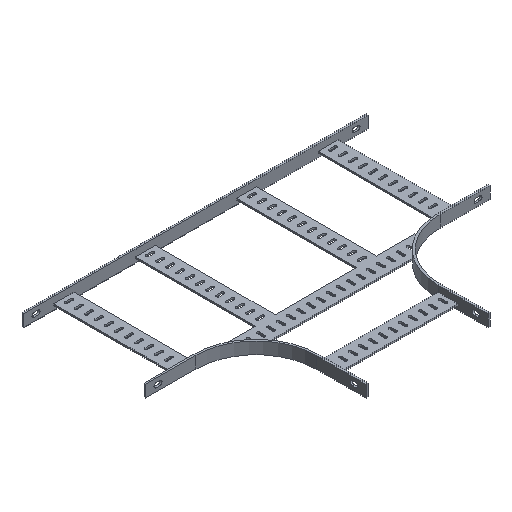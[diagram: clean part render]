
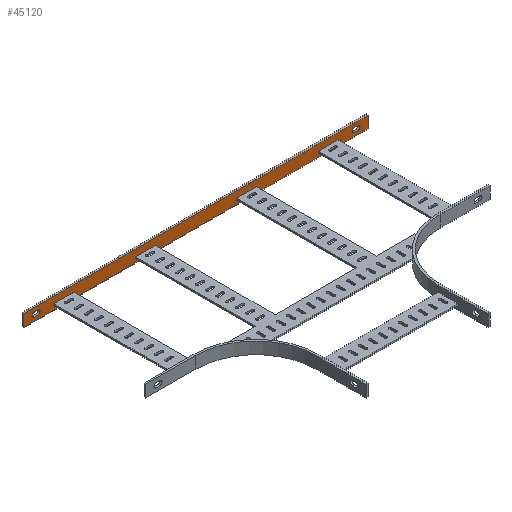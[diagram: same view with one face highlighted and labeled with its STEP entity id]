
A CAD part, isometric view. The second image highlights one B-rep face of the part: STEP entity #45120.
In plain terms, the highlighted planar face has unit normal (0, -1, 0).
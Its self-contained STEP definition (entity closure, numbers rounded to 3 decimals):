
#25350=CARTESIAN_POINT('',(-660.,455.,-16.));
#25360=VERTEX_POINT('',#25350);
#25390=CARTESIAN_POINT('',(0.,455.,-16.));
#25400=DIRECTION('',(-1.,0.,0.));
#25410=VECTOR('',#25400,1.);
#25420=LINE('',#25390,#25410);
#25430=CARTESIAN_POINT('',(-610.,455.,-16.));
#25440=VERTEX_POINT('',#25430);
#25450=EDGE_CURVE('',#25440,#25360,#25420,.T.);
#30290=CARTESIAN_POINT('',(-660.,455.,-20.));
#30300=VERTEX_POINT('',#30290);
#30330=CARTESIAN_POINT('',(-660.,455.,0.));
#30340=DIRECTION('',(0.,0.,-1.));
#30350=VECTOR('',#30340,1.);
#30360=LINE('',#30330,#30350);
#30370=EDGE_CURVE('',#25360,#30300,#30360,.T.);
#30530=CARTESIAN_POINT('',(-610.,455.,-20.));
#30540=VERTEX_POINT('',#30530);
#30570=CARTESIAN_POINT('',(0.,455.,-20.));
#30580=DIRECTION('',(1.,0.,0.));
#30590=VECTOR('',#30580,1.);
#30600=LINE('',#30570,#30590);
#30610=EDGE_CURVE('',#30300,#30540,#30600,.T.);
#34970=CARTESIAN_POINT('',(-610.,455.,0.));
#34980=DIRECTION('',(0.,0.,1.));
#34990=VECTOR('',#34980,1.);
#35000=LINE('',#34970,#34990);
#35010=EDGE_CURVE('',#30540,#25440,#35000,.T.);
#43010=CARTESIAN_POINT('',(125.,455.,0.));
#43020=DIRECTION('',(-0.,1.,0.));
#43030=DIRECTION('',(1.,0.,0.));
#43040=AXIS2_PLACEMENT_3D('',#43010,#43020,#43030);
#43050=PLANE('',#43040);
#43060=CARTESIAN_POINT('',(125.,455.,0.));
#43070=DIRECTION('',(-1.,0.,0.));
#43080=VECTOR('',#43070,1.);
#43090=LINE('',#43060,#43080);
#43100=CARTESIAN_POINT('',(125.,455.,0.));
#43110=VERTEX_POINT('',#43100);
#43120=CARTESIAN_POINT('',(-735.,455.,0.));
#43130=VERTEX_POINT('',#43120);
#43140=EDGE_CURVE('',#43110,#43130,#43090,.T.);
#43150=ORIENTED_EDGE('',*,*,#43140,.T.);
#43160=CARTESIAN_POINT('',(125.,455.,0.));
#43170=DIRECTION('',(0.,0.,-1.));
#43180=VECTOR('',#43170,1.);
#43190=LINE('',#43160,#43180);
#43200=CARTESIAN_POINT('',(125.,455.,-30.));
#43210=VERTEX_POINT('',#43200);
#43220=EDGE_CURVE('',#43110,#43210,#43190,.T.);
#43230=ORIENTED_EDGE('',*,*,#43220,.F.);
#43240=CARTESIAN_POINT('',(125.,455.,-30.));
#43250=DIRECTION('',(-1.,0.,0.));
#43260=VECTOR('',#43250,1.);
#43270=LINE('',#43240,#43260);
#43280=CARTESIAN_POINT('',(-735.,455.,-30.));
#43290=VERTEX_POINT('',#43280);
#43300=EDGE_CURVE('',#43210,#43290,#43270,.T.);
#43310=ORIENTED_EDGE('',*,*,#43300,.F.);
#43320=CARTESIAN_POINT('',(-735.,455.,0.));
#43330=DIRECTION('',(0.,0.,-1.));
#43340=VECTOR('',#43330,1.);
#43350=LINE('',#43320,#43340);
#43360=EDGE_CURVE('',#43130,#43290,#43350,.T.);
#43370=ORIENTED_EDGE('',*,*,#43360,.T.);
#43380=EDGE_LOOP('',(#43370,#43310,#43230,#43150));
#43390=FACE_OUTER_BOUND('',#43380,.T.);
#43400=CARTESIAN_POINT('',(-709.5,455.,-15.));
#43410=DIRECTION('',(0.,1.,0.));
#43420=DIRECTION('',(-1.,0.,0.));
#43430=AXIS2_PLACEMENT_3D('',#43400,#43410,#43420);
#43440=CIRCLE('',#43430,5.5);
#43450=CARTESIAN_POINT('',(-709.5,455.,-20.5));
#43460=VERTEX_POINT('',#43450);
#43470=CARTESIAN_POINT('',(-709.5,455.,-9.5));
#43480=VERTEX_POINT('',#43470);
#43490=EDGE_CURVE('',#43460,#43480,#43440,.T.);
#43500=ORIENTED_EDGE('',*,*,#43490,.T.);
#43510=CARTESIAN_POINT('',(-610.,455.,-20.5));
#43520=DIRECTION('',(-1.,0.,0.));
#43530=VECTOR('',#43520,1.);
#43540=LINE('',#43510,#43530);
#43550=CARTESIAN_POINT('',(-700.5,455.,-20.5));
#43560=VERTEX_POINT('',#43550);
#43570=EDGE_CURVE('',#43560,#43460,#43540,.T.);
#43580=ORIENTED_EDGE('',*,*,#43570,.T.);
#43590=CARTESIAN_POINT('',(-700.5,455.,-15.));
#43600=DIRECTION('',(0.,-1.,0.));
#43610=DIRECTION('',(-1.,0.,0.));
#43620=AXIS2_PLACEMENT_3D('',#43590,#43600,#43610);
#43630=CIRCLE('',#43620,5.5);
#43640=CARTESIAN_POINT('',(-700.5,455.,-9.5));
#43650=VERTEX_POINT('',#43640);
#43660=EDGE_CURVE('',#43560,#43650,#43630,.T.);
#43670=ORIENTED_EDGE('',*,*,#43660,.F.);
#43680=CARTESIAN_POINT('',(-610.,455.,-9.5));
#43690=DIRECTION('',(1.,0.,0.));
#43700=VECTOR('',#43690,1.);
#43710=LINE('',#43680,#43700);
#43720=EDGE_CURVE('',#43480,#43650,#43710,.T.);
#43730=ORIENTED_EDGE('',*,*,#43720,.T.);
#43740=EDGE_LOOP('',(#43730,#43670,#43580,#43500));
#43750=FACE_BOUND('',#43740,.T.);
#43760=CARTESIAN_POINT('',(-610.,455.,-20.5));
#43770=DIRECTION('',(-1.,0.,0.));
#43780=VECTOR('',#43770,1.);
#43790=LINE('',#43760,#43780);
#43800=CARTESIAN_POINT('',(99.5,455.,-20.5));
#43810=VERTEX_POINT('',#43800);
#43820=CARTESIAN_POINT('',(90.5,455.,-20.5));
#43830=VERTEX_POINT('',#43820);
#43840=EDGE_CURVE('',#43810,#43830,#43790,.T.);
#43850=ORIENTED_EDGE('',*,*,#43840,.T.);
#43860=CARTESIAN_POINT('',(99.5,455.,-15.));
#43870=DIRECTION('',(0.,1.,0.));
#43880=DIRECTION('',(1.,0.,0.));
#43890=AXIS2_PLACEMENT_3D('',#43860,#43870,#43880);
#43900=CIRCLE('',#43890,5.5);
#43910=CARTESIAN_POINT('',(99.5,455.,-9.5));
#43920=VERTEX_POINT('',#43910);
#43930=EDGE_CURVE('',#43920,#43810,#43900,.T.);
#43940=ORIENTED_EDGE('',*,*,#43930,.T.);
#43950=CARTESIAN_POINT('',(-610.,455.,-9.5));
#43960=DIRECTION('',(1.,0.,0.));
#43970=VECTOR('',#43960,1.);
#43980=LINE('',#43950,#43970);
#43990=CARTESIAN_POINT('',(90.5,455.,-9.5));
#44000=VERTEX_POINT('',#43990);
#44010=EDGE_CURVE('',#44000,#43920,#43980,.T.);
#44020=ORIENTED_EDGE('',*,*,#44010,.T.);
#44030=CARTESIAN_POINT('',(90.5,455.,-15.));
#44040=DIRECTION('',(0.,-1.,0.));
#44050=DIRECTION('',(1.,0.,0.));
#44060=AXIS2_PLACEMENT_3D('',#44030,#44040,#44050);
#44070=CIRCLE('',#44060,5.5);
#44080=EDGE_CURVE('',#44000,#43830,#44070,.T.);
#44090=ORIENTED_EDGE('',*,*,#44080,.F.);
#44100=EDGE_LOOP('',(#44090,#44020,#43940,#43850));
#44110=FACE_BOUND('',#44100,.T.);
#44120=CARTESIAN_POINT('',(0.,455.,-16.));
#44130=DIRECTION('',(-1.,0.,0.));
#44140=VECTOR('',#44130,1.);
#44150=LINE('',#44120,#44140);
#44160=CARTESIAN_POINT('',(50.,455.,-16.));
#44170=VERTEX_POINT('',#44160);
#44180=CARTESIAN_POINT('',(0.,455.,-16.));
#44190=VERTEX_POINT('',#44180);
#44200=EDGE_CURVE('',#44170,#44190,#44150,.T.);
#44210=ORIENTED_EDGE('',*,*,#44200,.F.);
#44220=CARTESIAN_POINT('',(0.,455.,0.));
#44230=DIRECTION('',(0.,0.,-1.));
#44240=VECTOR('',#44230,1.);
#44250=LINE('',#44220,#44240);
#44260=CARTESIAN_POINT('',(0.,455.,-20.));
#44270=VERTEX_POINT('',#44260);
#44280=EDGE_CURVE('',#44190,#44270,#44250,.T.);
#44290=ORIENTED_EDGE('',*,*,#44280,.F.);
#44300=CARTESIAN_POINT('',(0.,455.,-20.));
#44310=DIRECTION('',(1.,0.,0.));
#44320=VECTOR('',#44310,1.);
#44330=LINE('',#44300,#44320);
#44340=CARTESIAN_POINT('',(50.,455.,-20.));
#44350=VERTEX_POINT('',#44340);
#44360=EDGE_CURVE('',#44270,#44350,#44330,.T.);
#44370=ORIENTED_EDGE('',*,*,#44360,.F.);
#44380=CARTESIAN_POINT('',(50.,455.,0.));
#44390=DIRECTION('',(0.,0.,1.));
#44400=VECTOR('',#44390,1.);
#44410=LINE('',#44380,#44400);
#44420=EDGE_CURVE('',#44350,#44170,#44410,.T.);
#44430=ORIENTED_EDGE('',*,*,#44420,.F.);
#44440=EDGE_LOOP('',(#44430,#44370,#44290,#44210));
#44450=FACE_BOUND('',#44440,.T.);
#44460=CARTESIAN_POINT('',(-153.,455.,0.));
#44470=DIRECTION('',(0.,0.,1.));
#44480=VECTOR('',#44470,1.);
#44490=LINE('',#44460,#44480);
#44500=CARTESIAN_POINT('',(-153.,455.,-20.));
#44510=VERTEX_POINT('',#44500);
#44520=CARTESIAN_POINT('',(-153.,455.,-16.));
#44530=VERTEX_POINT('',#44520);
#44540=EDGE_CURVE('',#44510,#44530,#44490,.T.);
#44550=ORIENTED_EDGE('',*,*,#44540,.F.);
#44560=CARTESIAN_POINT('',(0.,455.,-16.));
#44570=DIRECTION('',(-1.,0.,0.));
#44580=VECTOR('',#44570,1.);
#44590=LINE('',#44560,#44580);
#44600=CARTESIAN_POINT('',(-203.,455.,-16.));
#44610=VERTEX_POINT('',#44600);
#44620=EDGE_CURVE('',#44530,#44610,#44590,.T.);
#44630=ORIENTED_EDGE('',*,*,#44620,.F.);
#44640=CARTESIAN_POINT('',(-203.,455.,0.));
#44650=DIRECTION('',(0.,0.,-1.));
#44660=VECTOR('',#44650,1.);
#44670=LINE('',#44640,#44660);
#44680=CARTESIAN_POINT('',(-203.,455.,-20.));
#44690=VERTEX_POINT('',#44680);
#44700=EDGE_CURVE('',#44610,#44690,#44670,.T.);
#44710=ORIENTED_EDGE('',*,*,#44700,.F.);
#44720=CARTESIAN_POINT('',(0.,455.,-20.));
#44730=DIRECTION('',(1.,0.,0.));
#44740=VECTOR('',#44730,1.);
#44750=LINE('',#44720,#44740);
#44760=EDGE_CURVE('',#44690,#44510,#44750,.T.);
#44770=ORIENTED_EDGE('',*,*,#44760,.F.);
#44780=EDGE_LOOP('',(#44770,#44710,#44630,#44550));
#44790=FACE_BOUND('',#44780,.T.);
#44800=ORIENTED_EDGE('',*,*,#30610,.F.);
#44810=ORIENTED_EDGE('',*,*,#35010,.F.);
#44820=ORIENTED_EDGE('',*,*,#25450,.F.);
#44830=ORIENTED_EDGE('',*,*,#30370,.F.);
#44840=EDGE_LOOP('',(#44830,#44820,#44810,#44800));
#44850=FACE_BOUND('',#44840,.T.);
#44860=CARTESIAN_POINT('',(-407.,455.,0.));
#44870=DIRECTION('',(0.,0.,1.));
#44880=VECTOR('',#44870,1.);
#44890=LINE('',#44860,#44880);
#44900=CARTESIAN_POINT('',(-407.,455.,-20.));
#44910=VERTEX_POINT('',#44900);
#44920=CARTESIAN_POINT('',(-407.,455.,-16.));
#44930=VERTEX_POINT('',#44920);
#44940=EDGE_CURVE('',#44910,#44930,#44890,.T.);
#44950=ORIENTED_EDGE('',*,*,#44940,.F.);
#44960=CARTESIAN_POINT('',(-457.,455.,-16.));
#44970=VERTEX_POINT('',#44960);
#44980=EDGE_CURVE('',#44930,#44970,#44590,.T.);
#44990=ORIENTED_EDGE('',*,*,#44980,.F.);
#45000=CARTESIAN_POINT('',(-457.,455.,0.));
#45010=DIRECTION('',(0.,0.,-1.));
#45020=VECTOR('',#45010,1.);
#45030=LINE('',#45000,#45020);
#45040=CARTESIAN_POINT('',(-457.,455.,-20.));
#45050=VERTEX_POINT('',#45040);
#45060=EDGE_CURVE('',#44970,#45050,#45030,.T.);
#45070=ORIENTED_EDGE('',*,*,#45060,.F.);
#45080=EDGE_CURVE('',#45050,#44910,#44750,.T.);
#45090=ORIENTED_EDGE('',*,*,#45080,.F.);
#45100=EDGE_LOOP('',(#45090,#45070,#44990,#44950));
#45110=FACE_BOUND('',#45100,.T.);
#45120=ADVANCED_FACE('',(#43390,#43750,#44110,#44450,#44790,#44850,
#45110),#43050,.F.);
